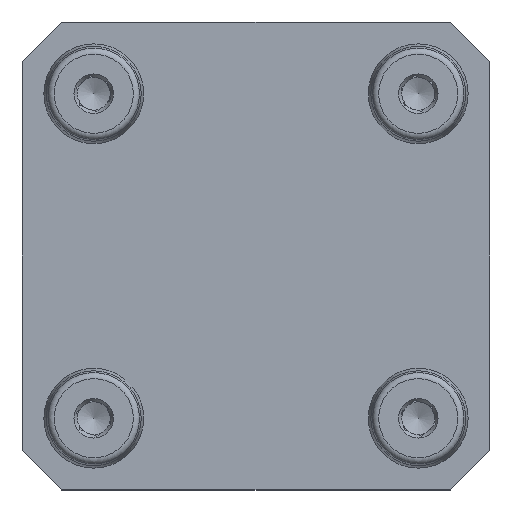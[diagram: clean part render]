
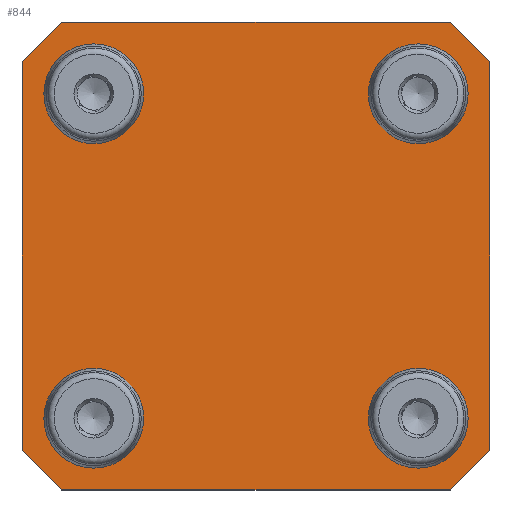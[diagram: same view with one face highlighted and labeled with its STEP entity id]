
A CAD part, front view. The second image highlights one B-rep face of the part: STEP entity #844.
In plain terms, the highlighted planar face has unit normal (0, -1, 0).
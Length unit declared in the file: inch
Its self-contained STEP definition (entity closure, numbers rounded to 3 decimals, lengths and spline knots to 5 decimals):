
#74 = VECTOR ( 'NONE', #2968, 39.37008 ) ;
#86 = CARTESIAN_POINT ( 'NONE',  ( 1.22638, -0.98425, -1.47638 ) ) ;
#250 = DIRECTION ( 'NONE',  ( 0., -1., 0. ) ) ;
#382 = EDGE_LOOP ( 'NONE', ( #885 ) ) ;
#406 = VERTEX_POINT ( 'NONE', #4380 ) ;
#458 = FACE_BOUND ( 'NONE', #5738, .T. ) ;
#505 = DIRECTION ( 'NONE',  ( 0., -1., 0. ) ) ;
#586 = VERTEX_POINT ( 'NONE', #2615 ) ;
#620 = CARTESIAN_POINT ( 'NONE',  ( -1.47638, -0.98425, -1.22638 ) ) ;
#666 = DIRECTION ( 'NONE',  ( 0.707, 0., -0.707 ) ) ;
#766 = EDGE_LOOP ( 'NONE', ( #5326, #5800, #4138, #2614, #1473, #6631, #5127, #4705 ) ) ;
#776 = CARTESIAN_POINT ( 'NONE',  ( 1.47638, -0.98425, -1.22638 ) ) ;
#786 = LINE ( 'NONE', #3380, #4139 ) ;
#789 = DIRECTION ( 'NONE',  ( 0., 0., -1. ) ) ;
#844 = ADVANCED_FACE ( 'NONE', ( #6037, #458, #1370, #1849, #4570 ), #2540, .T. ) ;
#885 = ORIENTED_EDGE ( 'NONE', *, *, #5940, .F. ) ;
#897 = ORIENTED_EDGE ( 'NONE', *, *, #6364, .F. ) ;
#934 = CARTESIAN_POINT ( 'NONE',  ( -1.22638, -0.98425, -1.47638 ) ) ;
#1082 = VERTEX_POINT ( 'NONE', #4903 ) ;
#1100 = EDGE_CURVE ( 'NONE', #1082, #6509, #4802, .T. ) ;
#1113 = EDGE_CURVE ( 'NONE', #3876, #3876, #3218, .T. ) ;
#1370 = FACE_BOUND ( 'NONE', #382, .T. ) ;
#1473 = ORIENTED_EDGE ( 'NONE', *, *, #1100, .F. ) ;
#1475 = EDGE_CURVE ( 'NONE', #6509, #3036, #3881, .T. ) ;
#1489 = ORIENTED_EDGE ( 'NONE', *, *, #5725, .F. ) ;
#1534 = DIRECTION ( 'NONE',  ( 0., -1., 0. ) ) ;
#1569 = AXIS2_PLACEMENT_3D ( 'NONE', #1740, #4830, #2226 ) ;
#1740 = CARTESIAN_POINT ( 'NONE',  ( -1.02362, -0.98425, 1.02362 ) ) ;
#1849 = FACE_BOUND ( 'NONE', #4545, .T. ) ;
#1937 = CARTESIAN_POINT ( 'NONE',  ( -1.47638, -0.98425, -1.22638 ) ) ;
#1961 = DIRECTION ( 'NONE',  ( 0., 0., -1. ) ) ;
#1997 = VECTOR ( 'NONE', #3849, 39.37008 ) ;
#2021 = CARTESIAN_POINT ( 'NONE',  ( 1.02362, -0.98425, -1.26017 ) ) ;
#2094 = CARTESIAN_POINT ( 'NONE',  ( -1.47638, -0.98425, 1.22638 ) ) ;
#2135 = LINE ( 'NONE', #86, #6583 ) ;
#2156 = AXIS2_PLACEMENT_3D ( 'NONE', #3607, #1534, #5593 ) ;
#2226 = DIRECTION ( 'NONE',  ( 0., 0., -1. ) ) ;
#2528 = CARTESIAN_POINT ( 'NONE',  ( -1.47638, -0.98425, 1.22638 ) ) ;
#2540 = PLANE ( 'NONE',  #3212 ) ;
#2614 = ORIENTED_EDGE ( 'NONE', *, *, #1475, .F. ) ;
#2615 = CARTESIAN_POINT ( 'NONE',  ( -1.22638, -0.98425, -1.47638 ) ) ;
#2750 = EDGE_CURVE ( 'NONE', #3036, #3560, #2135, .T. ) ;
#2802 = DIRECTION ( 'NONE',  ( 0., 0., -1. ) ) ;
#2887 = DIRECTION ( 'NONE',  ( 1., 0., 0. ) ) ;
#2930 = AXIS2_PLACEMENT_3D ( 'NONE', #4445, #250, #789 ) ;
#2961 = CARTESIAN_POINT ( 'NONE',  ( -1.02362, -0.98425, -1.02362 ) ) ;
#2968 = DIRECTION ( 'NONE',  ( -0.707, 0., 0.707 ) ) ;
#3021 = VERTEX_POINT ( 'NONE', #4631 ) ;
#3036 = VERTEX_POINT ( 'NONE', #4290 ) ;
#3173 = CARTESIAN_POINT ( 'NONE',  ( 1.22638, -0.98425, -1.47638 ) ) ;
#3203 = EDGE_LOOP ( 'NONE', ( #897 ) ) ;
#3212 = AXIS2_PLACEMENT_3D ( 'NONE', #4625, #3953, #6004 ) ;
#3218 = CIRCLE ( 'NONE', #1569, 0.23655 ) ;
#3232 = DIRECTION ( 'NONE',  ( 0., 0., 1. ) ) ;
#3380 = CARTESIAN_POINT ( 'NONE',  ( 1.22638, -0.98425, 1.47638 ) ) ;
#3433 = EDGE_CURVE ( 'NONE', #586, #5818, #6564, .T. ) ;
#3560 = VERTEX_POINT ( 'NONE', #3173 ) ;
#3576 = CARTESIAN_POINT ( 'NONE',  ( -1.02362, -0.98425, -1.26017 ) ) ;
#3607 = CARTESIAN_POINT ( 'NONE',  ( 1.02362, -0.98425, 1.02362 ) ) ;
#3654 = LINE ( 'NONE', #2094, #3912 ) ;
#3792 = DIRECTION ( 'NONE',  ( -0.707, 0., -0.707 ) ) ;
#3849 = DIRECTION ( 'NONE',  ( 0.707, 0., 0.707 ) ) ;
#3876 = VERTEX_POINT ( 'NONE', #6445 ) ;
#3881 = LINE ( 'NONE', #776, #5930 ) ;
#3912 = VECTOR ( 'NONE', #3232, 39.37008 ) ;
#3953 = DIRECTION ( 'NONE',  ( 0., -1., 0. ) ) ;
#3994 = VECTOR ( 'NONE', #666, 39.37008 ) ;
#4029 = CIRCLE ( 'NONE', #6504, 0.23655 ) ;
#4105 = EDGE_CURVE ( 'NONE', #406, #1082, #786, .T. ) ;
#4118 = VERTEX_POINT ( 'NONE', #3576 ) ;
#4138 = ORIENTED_EDGE ( 'NONE', *, *, #2750, .F. ) ;
#4139 = VECTOR ( 'NONE', #2887, 39.37008 ) ;
#4164 = CARTESIAN_POINT ( 'NONE',  ( 1.47638, -0.98425, 1.22638 ) ) ;
#4290 = CARTESIAN_POINT ( 'NONE',  ( 1.47638, -0.98425, -1.22638 ) ) ;
#4380 = CARTESIAN_POINT ( 'NONE',  ( -1.22638, -0.98425, 1.47638 ) ) ;
#4445 = CARTESIAN_POINT ( 'NONE',  ( 1.02362, -0.98425, -1.02362 ) ) ;
#4499 = CARTESIAN_POINT ( 'NONE',  ( -1.22638, -0.98425, 1.47638 ) ) ;
#4545 = EDGE_LOOP ( 'NONE', ( #5707 ) ) ;
#4570 = FACE_OUTER_BOUND ( 'NONE', #766, .T. ) ;
#4622 = LINE ( 'NONE', #934, #4681 ) ;
#4625 = CARTESIAN_POINT ( 'NONE',  ( 0., -0.98425, 0. ) ) ;
#4631 = CARTESIAN_POINT ( 'NONE',  ( 1.02362, -0.98425, 0.78707 ) ) ;
#4681 = VECTOR ( 'NONE', #5174, 39.37008 ) ;
#4701 = LINE ( 'NONE', #4499, #1997 ) ;
#4705 = ORIENTED_EDGE ( 'NONE', *, *, #6489, .F. ) ;
#4794 = EDGE_CURVE ( 'NONE', #4947, #406, #4701, .T. ) ;
#4802 = LINE ( 'NONE', #5924, #3994 ) ;
#4830 = DIRECTION ( 'NONE',  ( 0., -1., 0. ) ) ;
#4903 = CARTESIAN_POINT ( 'NONE',  ( 1.22638, -0.98425, 1.47638 ) ) ;
#4947 = VERTEX_POINT ( 'NONE', #2528 ) ;
#5127 = ORIENTED_EDGE ( 'NONE', *, *, #4794, .F. ) ;
#5174 = DIRECTION ( 'NONE',  ( -1., 0., 0. ) ) ;
#5326 = ORIENTED_EDGE ( 'NONE', *, *, #3433, .F. ) ;
#5567 = EDGE_CURVE ( 'NONE', #3560, #586, #4622, .T. ) ;
#5593 = DIRECTION ( 'NONE',  ( 0., 0., -1. ) ) ;
#5707 = ORIENTED_EDGE ( 'NONE', *, *, #1113, .F. ) ;
#5725 = EDGE_CURVE ( 'NONE', #3021, #3021, #5960, .T. ) ;
#5738 = EDGE_LOOP ( 'NONE', ( #1489 ) ) ;
#5800 = ORIENTED_EDGE ( 'NONE', *, *, #5567, .F. ) ;
#5818 = VERTEX_POINT ( 'NONE', #620 ) ;
#5852 = CIRCLE ( 'NONE', #2930, 0.23655 ) ;
#5924 = CARTESIAN_POINT ( 'NONE',  ( 1.47638, -0.98425, 1.22638 ) ) ;
#5930 = VECTOR ( 'NONE', #2802, 39.37008 ) ;
#5940 = EDGE_CURVE ( 'NONE', #6683, #6683, #5852, .T. ) ;
#5960 = CIRCLE ( 'NONE', #2156, 0.23655 ) ;
#6004 = DIRECTION ( 'NONE',  ( 0., 0., -1. ) ) ;
#6037 = FACE_BOUND ( 'NONE', #3203, .T. ) ;
#6364 = EDGE_CURVE ( 'NONE', #4118, #4118, #4029, .T. ) ;
#6445 = CARTESIAN_POINT ( 'NONE',  ( -1.02362, -0.98425, 0.78707 ) ) ;
#6489 = EDGE_CURVE ( 'NONE', #5818, #4947, #3654, .T. ) ;
#6504 = AXIS2_PLACEMENT_3D ( 'NONE', #2961, #505, #1961 ) ;
#6509 = VERTEX_POINT ( 'NONE', #4164 ) ;
#6564 = LINE ( 'NONE', #1937, #74 ) ;
#6583 = VECTOR ( 'NONE', #3792, 39.37008 ) ;
#6631 = ORIENTED_EDGE ( 'NONE', *, *, #4105, .F. ) ;
#6683 = VERTEX_POINT ( 'NONE', #2021 ) ;
